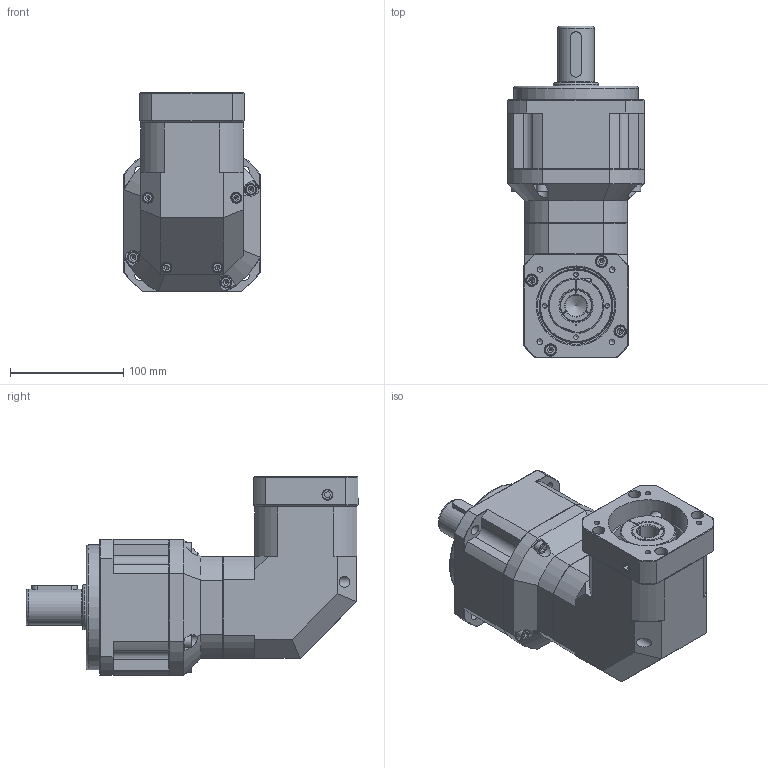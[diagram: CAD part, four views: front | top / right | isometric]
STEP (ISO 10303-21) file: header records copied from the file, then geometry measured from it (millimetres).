
FILE_DESCRIPTION((''),'2;1');
FILE_NAME('C:\Work\감속기 카다로그 도면\ATG Reducer(홈페이지)\PBL-H\STP\PBL120S-H-2.stp','2014-05-27T14:52:33',('young'),(''),'Autodesk Inventor 2012','Autodesk Inventor 2012','');
FILE_SCHEMA(('AUTOMOTIVE_DESIGN { 1 0 10303 214 1 1 1 1 }'));
Length unit declared in the file: millimetre
Products named in the file (1): PBL120S-H-2
Bounding box: 120 x 292.6 x 175.3 mm (x, y, z)
Volume: 2248115.6 mm3; surface area: 293124.5 mm2
Topology: 26 solids, 27 shells, 819 faces, 1939 edges, 1240 vertices
Faces by surface type: plane 465, cylinder 187, cone 122, torus 23, bspline 22
Full cylindrical faces by diameter (mm): 4 x4, 4.2 x4, 5 x16, 5.1 x1, 5.5 x4, 6 x13, 6.5 x5, 6.8 x4, 8.433 x2, 8.5 x5, 9 x4, 9.5 x6, 10 x9, 11 x4, 12 x1, 17 x1, 19 x1, 28.4 x1, 29.8 x1, 30 x1, 32 x1, 39 x1, 39.8 x1, 40 x1, 43 x1, 45 x2, 47 x1, 55 x2, 62 x3, 63.92 x18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
Entity records: 28886 total; most frequent: CARTESIAN_POINT 11376, DIRECTION 3544, ORIENTED_EDGE 3314, EDGE_CURVE 1657, AXIS2_PLACEMENT_3D 1347, VERTEX_POINT 1185, EDGE_LOOP 1126, VECTOR 850
